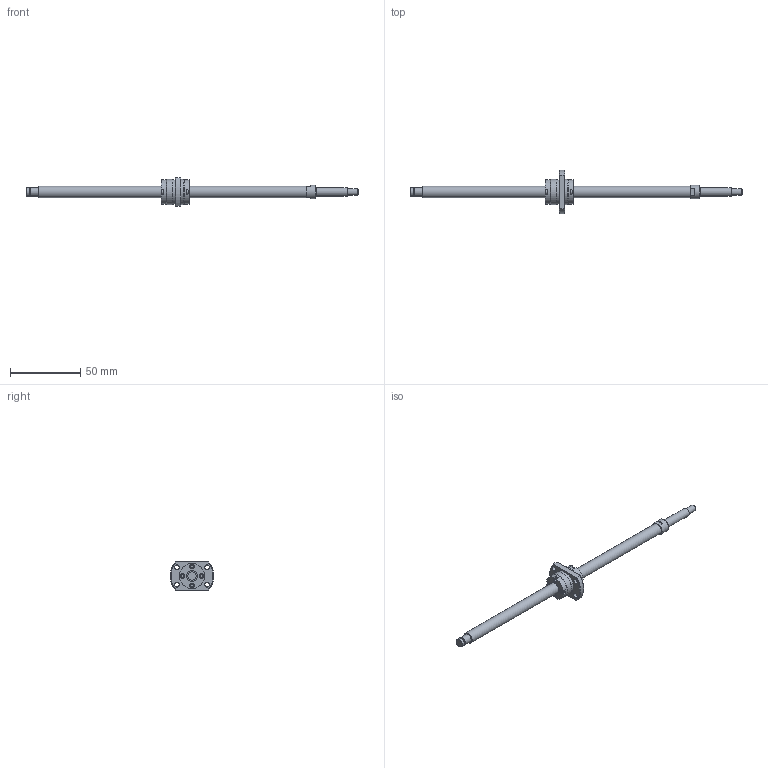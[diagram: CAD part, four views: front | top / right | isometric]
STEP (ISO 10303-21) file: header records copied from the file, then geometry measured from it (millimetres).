
FILE_DESCRIPTION(/* description */ ('STEP AP214'),/* implementation_level */ '2;1');
FILE_NAME(/* name */ 'SRT0808-187R237C7B0X(87.5Processing)',/* time_stamp */ '2026-08-04T20:03:56+02:00',/* author */ ('License CC BY-ND 4.0'),/* organization */ ('CADENAS'),/* preprocessor_version */ 'ST-DEVELOPER v20',/* originating_system */ 'PARTsolutions',/* authorisation */ ' ');
FILE_SCHEMA (('AUTOMOTIVE_DESIGN {1 0 10303 214 3 1 1}'));
Length unit declared in the file: millimetre
Products named in the file (3): SRT0808-187R237C7B0X(87.5Processing); SRT0808-187R270BCt7Processing45Shaft; SRT0808Nut
Assembly tree (2 placements, depth 2):
  SRT0808-187R237C7B0X(87.5Processing)
    SRT0808-187R270BCt7Processing45Shaft
    SRT0808Nut
Bounding box: 237 x 30.91 x 20 mm (x, y, z)
Volume: 16058.4 mm3; surface area: 8961.2 mm2
Topology: 2 solids, 2 shells, 155 faces, 366 edges, 241 vertices
Faces by surface type: plane 110, cylinder 35, cone 9, torus 1
Full cylindrical faces by diameter (mm): 3 x8, 3.4 x4, 4.5 x1, 5.7 x1, 6 x3, 8 x2, 9.5 x1, 17.5 x2, 17.7 x1, 18 x2
Entity records: 4367 total; most frequent: CARTESIAN_POINT 752, DIRECTION 738, ORIENTED_EDGE 664, EDGE_CURVE 332, AXIS2_PLACEMENT_3D 256, VERTEX_POINT 238, LINE 226, VECTOR 226
